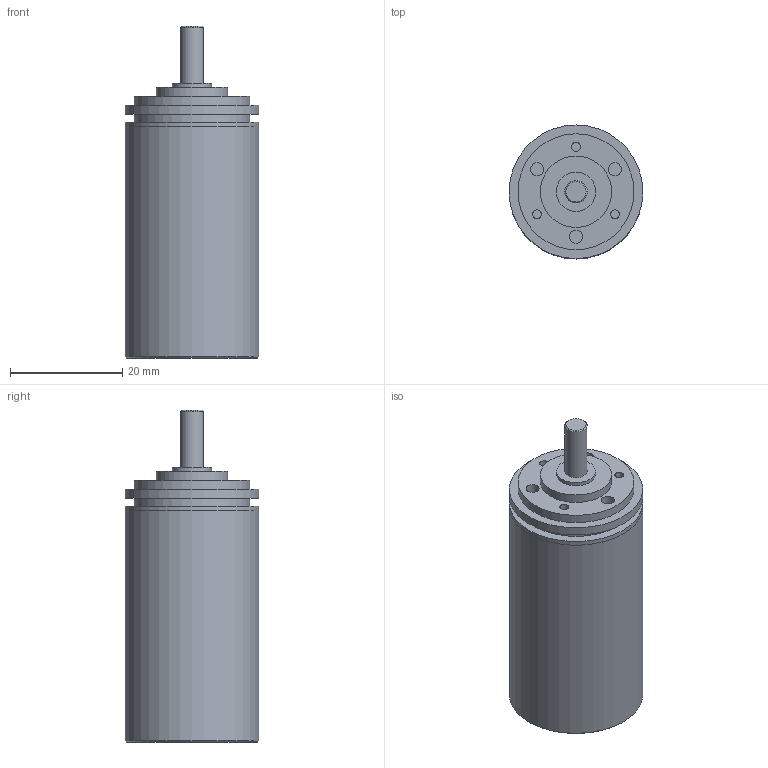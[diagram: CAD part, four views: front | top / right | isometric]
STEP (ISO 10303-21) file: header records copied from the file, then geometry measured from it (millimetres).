
FILE_DESCRIPTION(/* description */ (''),/* implementation_level */ '2;1');
FILE_NAME(/* name */ '22-2_3.stp',/* time_stamp */ '2016-08-26T11:13:14+02:00',/* author */ ('DR. FRITZ FAULHABER GmbH & Co. KG'),/* organization */ ('DR. FRITZ FAULHABER GmbH & Co. KG'),/* preprocessor_version */ 'ST-DEVELOPER v16',/* originating_system */ 'SIEMENS PLM Software NX 10.0',/* authorisation */ '');
FILE_SCHEMA (('AUTOMOTIVE_DESIGN { 1 0 10303 214 3 1 1 1 }'));
Length unit declared in the file: millimetre
Products named in the file (1): H00000853_A
Bounding box: 23.8 x 23.8 x 59.1 mm (x, y, z)
Volume: 12570.4 mm3; surface area: 6491.5 mm2
Topology: 1 solids, 1 shells, 42 faces, 65 edges, 43 vertices
Faces by surface type: plane 20, cylinder 19, cone 3
Full cylindrical faces by diameter (mm): 1.6 x3, 2.329 x3, 3.5 x1, 4 x1, 4.5 x1, 7 x2, 12.7 x1, 20.63 x2, 22 x1, 23.79 x1, 23.8 x3
Entity records: 858 total; most frequent: DIRECTION 168, CARTESIAN_POINT 125, AXIS2_PLACEMENT_3D 84, EDGE_LOOP 82, ORIENTED_EDGE 82, FACE_BOUND 74, ADVANCED_FACE 42, VERTEX_POINT 41
